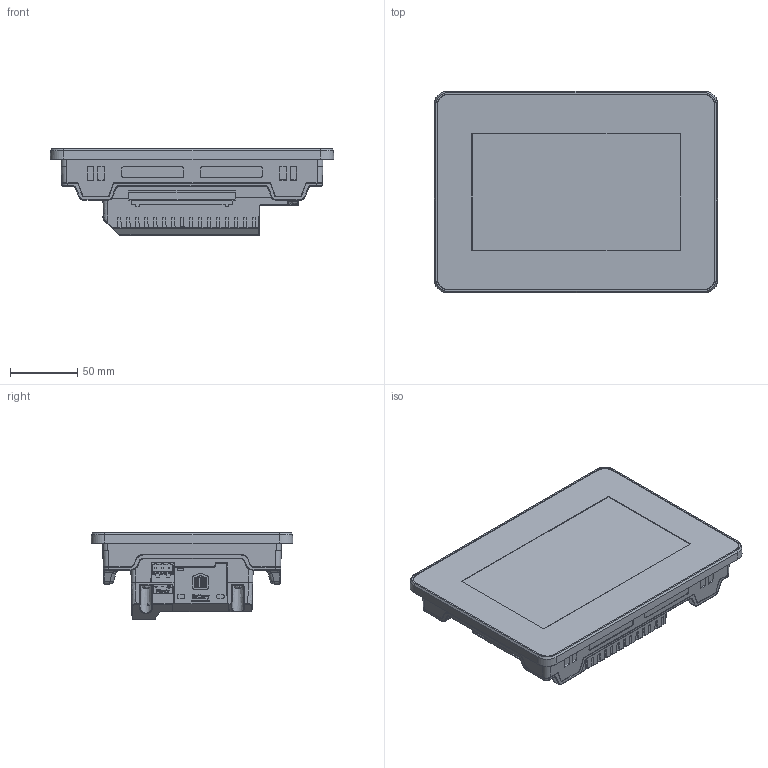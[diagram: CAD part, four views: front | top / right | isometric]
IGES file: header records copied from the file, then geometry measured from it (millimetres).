
Start section: SolidWorks IGES file using analytic representation for surfaces
Global section: file name: Z:\Products\UniStream\Unistream 7\1. Development Files\Design\REV 07 - (after DFM)\CAD FILES\3D\Unistream 7_3D.IGS; native system: SolidWorks 2017; preprocessor: SolidWorks 2017; author: LaorB; date: 180823.131850; units: millimetre
Bounding box: 211.53 x 150.53 x 64.5 mm (x, y, z)
Surface area: 111903.7 mm2 (no closed solid volume)
Topology: 0 solids, 0 shells, 3255 faces, 26952 edges, 26914 vertices
Faces by surface type: bspline 2355, revolution 900
